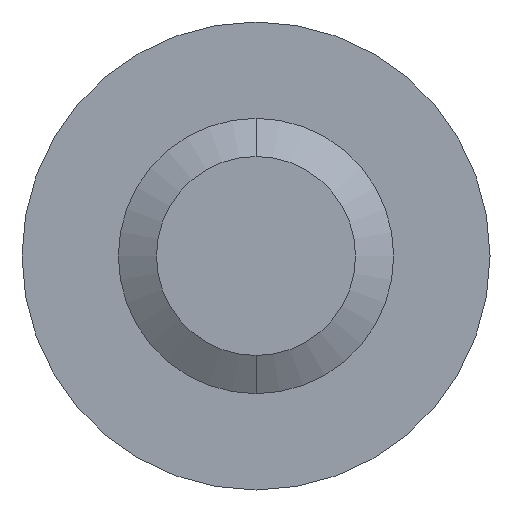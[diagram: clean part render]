
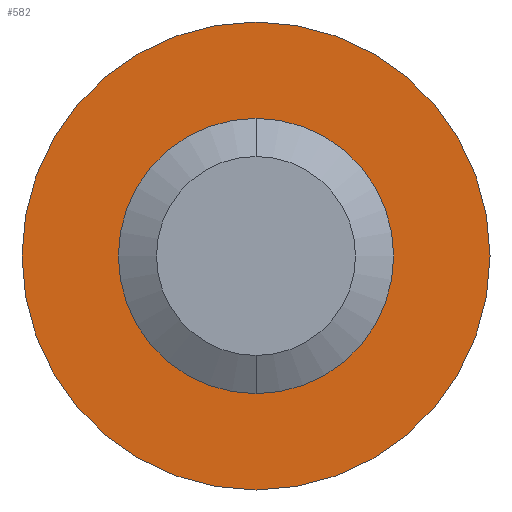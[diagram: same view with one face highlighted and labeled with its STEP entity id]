
A CAD part, front view. The second image highlights one B-rep face of the part: STEP entity #582.
In plain terms, the highlighted planar face has unit normal (0, -1, 0).
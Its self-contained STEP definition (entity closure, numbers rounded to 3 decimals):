
#2 = CARTESIAN_POINT ( 'NONE',  ( 0., 16., 0. ) ) ;
#54 = CARTESIAN_POINT ( 'NONE',  ( 0., 16., 2.5 ) ) ;
#171 = DIRECTION ( 'NONE',  ( 0., 0., 1. ) ) ;
#243 = CARTESIAN_POINT ( 'NONE',  ( 0., 16., -4.25 ) ) ;
#270 = DIRECTION ( 'NONE',  ( 0., 0., 1. ) ) ;
#419 = CARTESIAN_POINT ( 'NONE',  ( 0., 16., 0. ) ) ;
#421 = DIRECTION ( 'NONE',  ( 0., 1., 0. ) ) ;
#431 = AXIS2_PLACEMENT_3D ( 'NONE', #2701, #560, #950 ) ;
#530 = EDGE_CURVE ( 'NONE', #972, #543, #883, .T. ) ;
#543 = VERTEX_POINT ( 'NONE', #243 ) ;
#560 = DIRECTION ( 'NONE',  ( 0., 1., 0. ) ) ;
#582 = ADVANCED_FACE ( 'NONE', ( #1296, #1038 ), #1903, .F. ) ;
#658 = CARTESIAN_POINT ( 'NONE',  ( 0., 16., 0. ) ) ;
#798 = AXIS2_PLACEMENT_3D ( 'NONE', #2, #1274, #171 ) ;
#808 = ORIENTED_EDGE ( 'NONE', *, *, #2503, .T. ) ;
#818 = VERTEX_POINT ( 'NONE', #54 ) ;
#830 = EDGE_LOOP ( 'NONE', ( #808, #2757 ) ) ;
#857 = CARTESIAN_POINT ( 'NONE',  ( 0., 16., 0. ) ) ;
#883 = CIRCLE ( 'NONE', #1682, 4.25 ) ;
#885 = CIRCLE ( 'NONE', #798, 4.25 ) ;
#950 = DIRECTION ( 'NONE',  ( 0., 0., 1. ) ) ;
#972 = VERTEX_POINT ( 'NONE', #2707 ) ;
#1038 = FACE_BOUND ( 'NONE', #830, .T. ) ;
#1047 = DIRECTION ( 'NONE',  ( 0., 1., 0. ) ) ;
#1124 = DIRECTION ( 'NONE',  ( 0., 1., 0. ) ) ;
#1274 = DIRECTION ( 'NONE',  ( 0., 1., 0. ) ) ;
#1296 = FACE_OUTER_BOUND ( 'NONE', #2299, .T. ) ;
#1324 = AXIS2_PLACEMENT_3D ( 'NONE', #857, #421, #2596 ) ;
#1342 = CIRCLE ( 'NONE', #2375, 2.5 ) ;
#1438 = EDGE_CURVE ( 'NONE', #818, #1827, #1561, .T. ) ;
#1561 = CIRCLE ( 'NONE', #431, 2.5 ) ;
#1682 = AXIS2_PLACEMENT_3D ( 'NONE', #658, #1124, #270 ) ;
#1731 = DIRECTION ( 'NONE',  ( 0., 0., 1. ) ) ;
#1758 = ORIENTED_EDGE ( 'NONE', *, *, #530, .F. ) ;
#1827 = VERTEX_POINT ( 'NONE', #2291 ) ;
#1869 = EDGE_CURVE ( 'NONE', #543, #972, #885, .T. ) ;
#1903 = PLANE ( 'NONE',  #1324 ) ;
#2291 = CARTESIAN_POINT ( 'NONE',  ( 0., 16., -2.5 ) ) ;
#2299 = EDGE_LOOP ( 'NONE', ( #2418, #1758 ) ) ;
#2375 = AXIS2_PLACEMENT_3D ( 'NONE', #419, #1047, #1731 ) ;
#2418 = ORIENTED_EDGE ( 'NONE', *, *, #1869, .F. ) ;
#2503 = EDGE_CURVE ( 'NONE', #1827, #818, #1342, .T. ) ;
#2596 = DIRECTION ( 'NONE',  ( 0., 0., 1. ) ) ;
#2701 = CARTESIAN_POINT ( 'NONE',  ( 0., 16., 0. ) ) ;
#2707 = CARTESIAN_POINT ( 'NONE',  ( 0., 16., 4.25 ) ) ;
#2757 = ORIENTED_EDGE ( 'NONE', *, *, #1438, .T. ) ;
